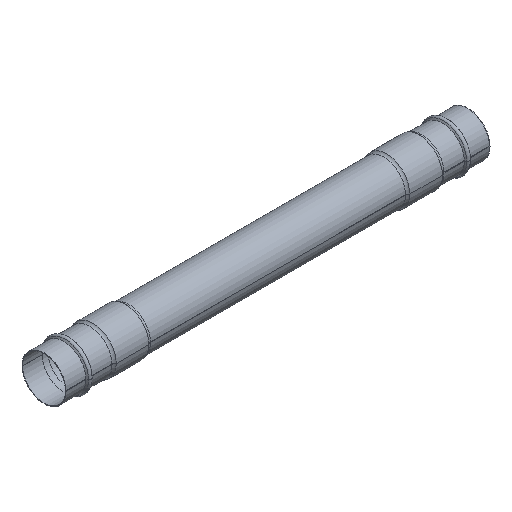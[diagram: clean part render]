
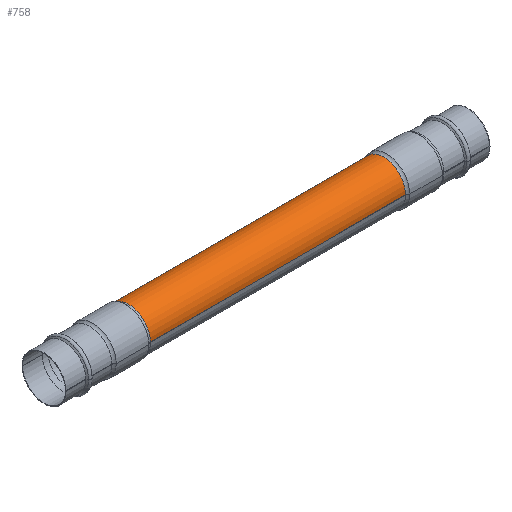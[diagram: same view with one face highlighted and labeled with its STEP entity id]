
A CAD part, isometric view. The second image highlights one B-rep face of the part: STEP entity #758.
In plain terms, the highlighted cylindrical face has radius 33.75 mm (diameter 67.5 mm), a partial arc.
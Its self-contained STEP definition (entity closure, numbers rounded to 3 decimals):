
#79=CARTESIAN_POINT('',(195.528,0.,0.));
#80=DIRECTION('',(1.,0.,0.));
#81=DIRECTION('',(0.,1.,0.));
#82=AXIS2_PLACEMENT_3D('',#79,#80,#81);
#87=CARTESIAN_POINT('',(-195.528,0.,0.));
#88=DIRECTION('',(-1.,0.,0.));
#89=DIRECTION('',(0.,-1.,0.));
#90=AXIS2_PLACEMENT_3D('',#87,#88,#89);
#175=DIRECTION('',(-1.,0.,0.));
#176=VECTOR('',#175,391.056);
#177=CARTESIAN_POINT('',(195.528,33.75,0.));
#178=LINE('',#177,#176);
#190=DIRECTION('',(-1.,0.,0.));
#191=VECTOR('',#190,391.056);
#192=CARTESIAN_POINT('',(195.528,-33.75,0.));
#193=LINE('',#192,#191);
#617=CARTESIAN_POINT('',(195.528,-33.75,0.));
#618=CARTESIAN_POINT('',(195.528,33.75,0.));
#619=VERTEX_POINT('',#617);
#620=VERTEX_POINT('',#618);
#625=CARTESIAN_POINT('',(-195.528,-33.75,0.));
#626=CARTESIAN_POINT('',(-195.528,33.75,0.));
#627=VERTEX_POINT('',#625);
#628=VERTEX_POINT('',#626);
#743=CARTESIAN_POINT('',(-357.5,0.,0.));
#744=DIRECTION('',(1.,0.,0.));
#745=DIRECTION('',(0.,-1.,0.));
#746=AXIS2_PLACEMENT_3D('',#743,#744,#745);
#747=CYLINDRICAL_SURFACE('',#746,33.75);
#749=ORIENTED_EDGE('',*,*,#748,.T.);
#751=ORIENTED_EDGE('',*,*,#750,.T.);
#753=ORIENTED_EDGE('',*,*,#752,.T.);
#755=ORIENTED_EDGE('',*,*,#754,.F.);
#756=EDGE_LOOP('',(#749,#751,#753,#755));
#757=FACE_OUTER_BOUND('',#756,.F.);
#83=CIRCLE('',#82,33.75);
#91=CIRCLE('',#90,33.75);
#748=EDGE_CURVE('',#620,#619,#83,.T.);
#750=EDGE_CURVE('',#619,#627,#193,.T.);
#752=EDGE_CURVE('',#627,#628,#91,.T.);
#754=EDGE_CURVE('',#620,#628,#178,.T.);
#758=ADVANCED_FACE('',(#757),#747,.T.);
